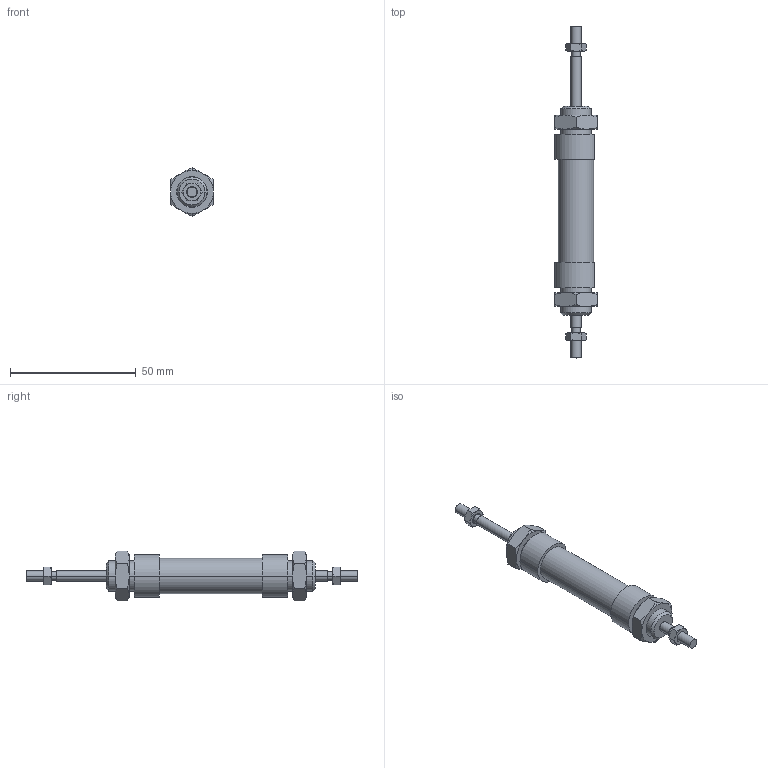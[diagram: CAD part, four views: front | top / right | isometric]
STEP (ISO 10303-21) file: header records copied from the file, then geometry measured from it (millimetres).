
FILE_DESCRIPTION((''),'2;1');
FILE_NAME('I:\DOC-EDP\Lib-3d\1200\CILINDRI\1262\1262_10_0015.stp','2003-04-02T18:56:40',('maffial1'),(''),'Autodesk Inventor (R) 6.0','Autodesk Inventor (R) 6.0','');
FILE_SCHEMA(('AUTOMOTIVE_DESIGN { 1 0 10303 214 1 1 1 1 }'));
Length unit declared in the file: millimetre
Products named in the file (5): 1262_10_0015; S1262_10_15; C1262_10_15; 1200_10_05; 1200_10_06
Assembly tree (6 placements, depth 2):
  1262_10_0015
    S1262_10_15
    C1262_10_15
    1200_10_05  x2
    1200_10_06  x2
Bounding box: 17 x 132 x 19.63 mm (x, y, z)
Volume: 15516.4 mm3; surface area: 8938.7 mm2
Topology: 6 solids, 6 shells, 170 faces, 356 edges, 208 vertices
Faces by surface type: cone 72, plane 46, bspline 30, cylinder 22
Entity records: 3247 total; most frequent: CARTESIAN_POINT 893, DIRECTION 490, ORIENTED_EDGE 456, EDGE_CURVE 228, AXIS2_PLACEMENT_3D 209, VERTEX_POINT 136, EDGE_LOOP 126, FACE_OUTER_BOUND 110
